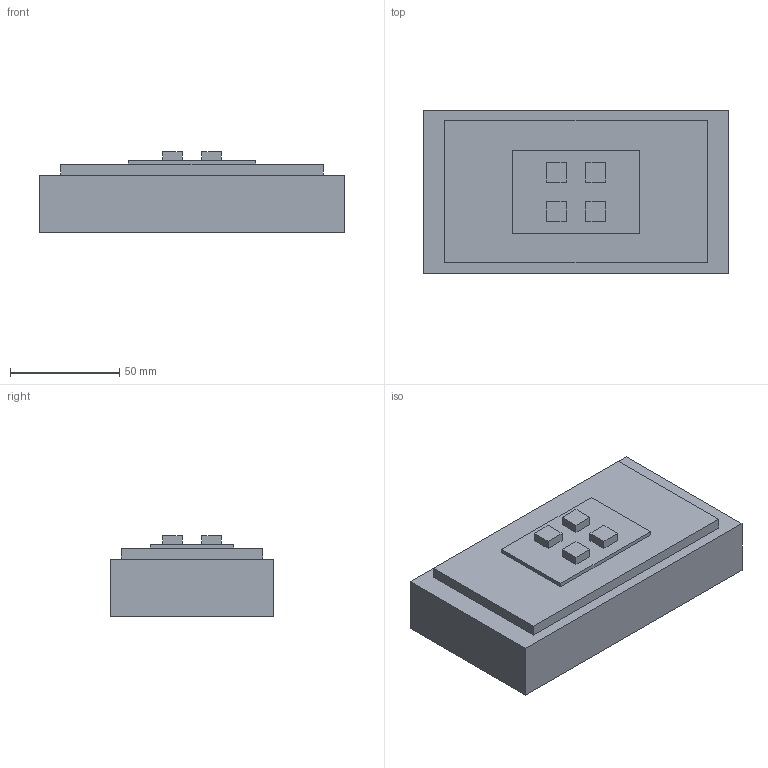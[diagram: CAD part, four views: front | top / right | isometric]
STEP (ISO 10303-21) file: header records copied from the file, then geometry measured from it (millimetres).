
FILE_DESCRIPTION(/* description */ (''),/* implementation_level */ '2;1');
FILE_NAME(/* name */ 'C:/Users/Quentin/Documents/FabAcademy/Fusion360/DNA_keypad/20210425_DNA_keypad_top_mold.step',/* time_stamp */ '2021-04-25T11:10:27+02:00',/* author */ (''),/* organization */ (''),/* preprocessor_version */ 'ST-DEVELOPER v18.1',/* originating_system */ 'Autodesk Translation Framework v10.6.0.1341',/* authorisation */ '');
FILE_SCHEMA (('AUTOMOTIVE_DESIGN { 1 0 10303 214 3 1 1 }'));
Length unit declared in the file: millimetre
Products named in the file (2): DNA_keypad_v2; mold_top
Assembly tree (1 placements, depth 2):
  DNA_keypad_v2
    mold_top
Bounding box: 140 x 75 x 37 mm (x, y, z)
Volume: 319412.2 mm3; surface area: 35039.5 mm2
Topology: 1 solids, 1 shells, 36 faces, 84 edges, 56 vertices
Faces by surface type: plane 36
Entity records: 1061 total; most frequent: CARTESIAN_POINT 179, ORIENTED_EDGE 168, DIRECTION 162, LINE 84, VECTOR 84, EDGE_CURVE 84, VERTEX_POINT 56, EDGE_LOOP 42
